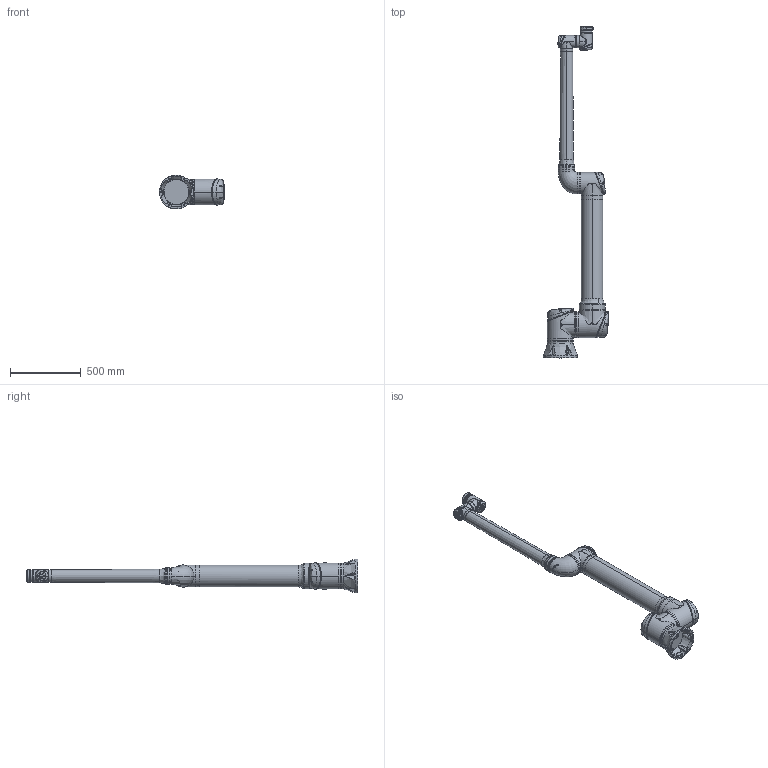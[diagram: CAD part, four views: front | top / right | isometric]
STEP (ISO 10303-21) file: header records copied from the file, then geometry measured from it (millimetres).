
FILE_DESCRIPTION (( 'STEP AP203' ), '1' );
FILE_NAME ('CS_掛极CS520H_V1.1.STEP', '2023-07-28T07:00:00', ( '' ), ( '' ), 'SwSTEP 2.0', 'SolidWorks 2017', '' );
FILE_SCHEMA (( 'CONFIG_CONTROL_DESIGN' ));
Length unit declared in the file: millimetre
Products named in the file (7): CS520H-Link4; CS520H-Link3; CS520H-Link1; CS520H-Flange; CS520H-Base; CS520H-Link2; CS_掛极CS520H_V1.1
Assembly tree (6 placements, depth 2):
  CS_掛极CS520H_V1.1
    CS520H-Base
    CS520H-Link1
    CS520H-Link2
    CS520H-Link3
    CS520H-Link4
    CS520H-Flange
Bounding box: 461.05 x 2345.3 x 239.64 mm (x, y, z)
Volume: 42839189.9 mm3; surface area: 1911478.4 mm2
Topology: 42 solids, 87 shells, 5011 faces, 11916 edges, 7051 vertices
Faces by surface type: bspline 2251, plane 1286, cylinder 926, cone 412, torus 75, sphere 61
Entity records: 319240 total; most frequent: CARTESIAN_POINT 221752, ORIENTED_EDGE 23332, DIRECTION 15604, EDGE_CURVE 11666, VERTEX_POINT 7038, AXIS2_PLACEMENT_3D 6460, EDGE_LOOP 5290, FACE_OUTER_BOUND 5012
